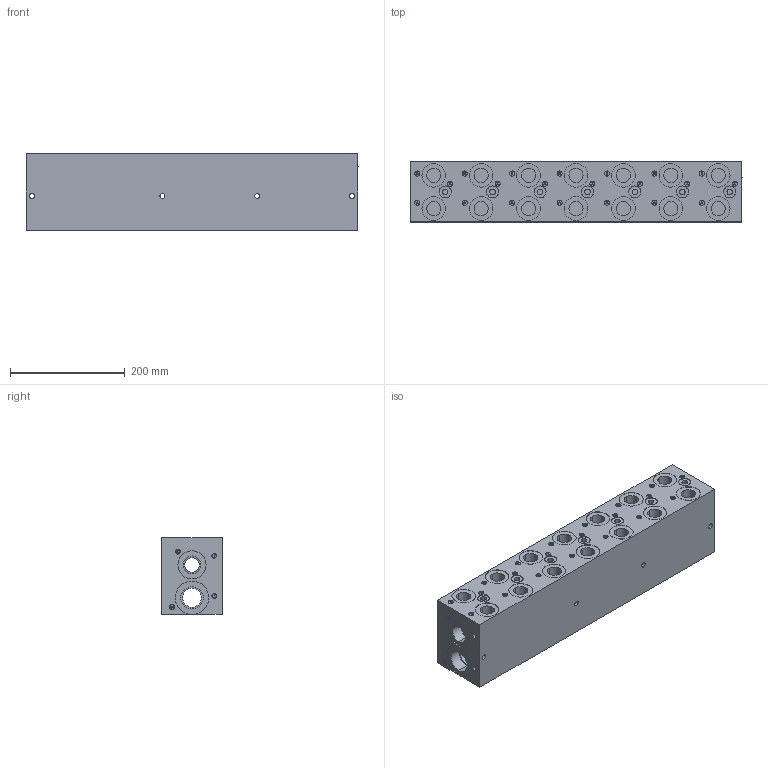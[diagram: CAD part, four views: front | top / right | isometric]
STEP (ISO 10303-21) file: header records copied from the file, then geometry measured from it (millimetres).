
FILE_DESCRIPTION (( 'STEP AP203' ), '1' );
FILE_NAME ('BM-AHP05HS3-07-1_Z.STEP', '2015-01-06T16:20:55', ( '' ), ( '' ), 'SwSTEP 2.0', 'SolidWorks 2014', '' );
FILE_SCHEMA (( 'CONFIG_CONTROL_DESIGN' ));
Products named in the file (1): BM-AHP05HS3-07-1_Z
Bounding box: 577.85 x 104.65 x 133.35 mm (x, y, z)
Volume: 7019346.4 mm3; surface area: 472827.7 mm2
Topology: 1 solids, 1 shells, 1206 faces, 2929 edges, 1837 vertices
Faces by surface type: plane 556, cylinder 417, cone 150, bspline 83
Entity records: 39444 total; most frequent: CARTESIAN_POINT 11604, DIRECTION 5667, ORIENTED_EDGE 5586, EDGE_CURVE 2793, AXIS2_PLACEMENT_3D 1958, VERTEX_POINT 1837, VECTOR 1751, LINE 1751
